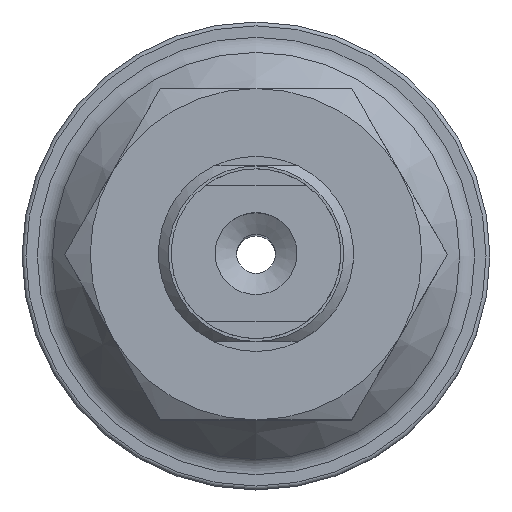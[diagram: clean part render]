
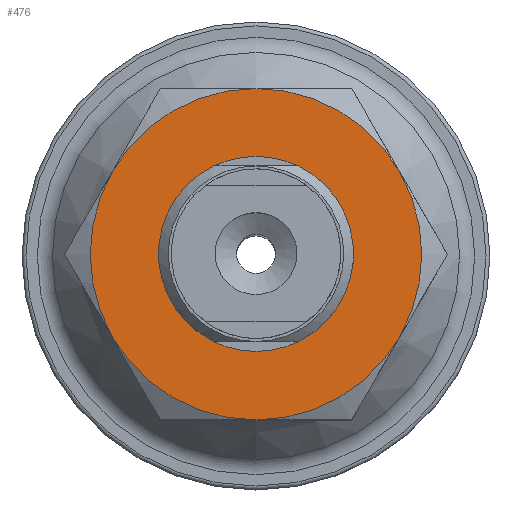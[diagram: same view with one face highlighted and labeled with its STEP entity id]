
A CAD part, top view. The second image highlights one B-rep face of the part: STEP entity #476.
In plain terms, the highlighted planar face has unit normal (0, 0, 1).
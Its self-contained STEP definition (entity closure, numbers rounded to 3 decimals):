
#476=ADVANCED_FACE('',(#639,#640),#641,.T.);
#639=FACE_BOUND('',#941,.T.);
#640=FACE_OUTER_BOUND('',#942,.T.);
#641=PLANE('',#943);
#941=EDGE_LOOP('',(#1403));
#942=EDGE_LOOP('',(#1404,#1405,#1406,#1407,#1408,#1409));
#943=AXIS2_PLACEMENT_3D('',#1410,#1411,#1412);
#1403=ORIENTED_EDGE('',*,*,#2048,.F.);
#1404=ORIENTED_EDGE('',*,*,#2049,.F.);
#1405=ORIENTED_EDGE('',*,*,#2042,.F.);
#1406=ORIENTED_EDGE('',*,*,#2018,.F.);
#1407=ORIENTED_EDGE('',*,*,#2021,.F.);
#1408=ORIENTED_EDGE('',*,*,#2050,.F.);
#1409=ORIENTED_EDGE('',*,*,#2051,.F.);
#1410=CARTESIAN_POINT('',(-9.815,-8.5,4.0));
#1411=DIRECTION('',(0.0,0.0,1.0));
#1412=DIRECTION('',(1.0,0.0,0.0));
#2018=EDGE_CURVE('',#2261,#2262,#2263,.T.);
#2021=EDGE_CURVE('',#2267,#2261,#2268,.T.);
#2042=EDGE_CURVE('',#2262,#2302,#2303,.T.);
#2048=EDGE_CURVE('',#2311,#2311,#2312,.T.);
#2049=EDGE_CURVE('',#2302,#2313,#2314,.T.);
#2050=EDGE_CURVE('',#2315,#2267,#2316,.T.);
#2051=EDGE_CURVE('',#2313,#2315,#2317,.T.);
#2261=VERTEX_POINT('',#2729);
#2262=VERTEX_POINT('',#2730);
#2263=CIRCLE('',#2731,8.5);
#2267=VERTEX_POINT('',#2743);
#2268=CIRCLE('',#2744,8.5);
#2302=VERTEX_POINT('',#2824);
#2303=CIRCLE('',#2825,8.5);
#2311=VERTEX_POINT('',#2850);
#2312=CIRCLE('',#2851,4.5);
#2313=VERTEX_POINT('',#2852);
#2314=CIRCLE('',#2853,8.5);
#2315=VERTEX_POINT('',#2854);
#2316=CIRCLE('',#2855,8.5);
#2317=CIRCLE('',#2856,8.5);
#2729=CARTESIAN_POINT('',(7.361,4.25,4.0));
#2730=CARTESIAN_POINT('',(7.361,-4.25,4.0));
#2731=AXIS2_PLACEMENT_3D('',#3241,#3242,#3243);
#2743=CARTESIAN_POINT('',(0.,8.5,4.0));
#2744=AXIS2_PLACEMENT_3D('',#3244,#3245,#3246);
#2824=CARTESIAN_POINT('',(0.,-8.5,4.0));
#2825=AXIS2_PLACEMENT_3D('',#3270,#3271,#3272);
#2850=CARTESIAN_POINT('',(0.0,-4.5,4.0));
#2851=AXIS2_PLACEMENT_3D('',#3274,#3275,#3276);
#2852=CARTESIAN_POINT('',(-7.361,-4.25,4.0));
#2853=AXIS2_PLACEMENT_3D('',#3277,#3278,#3279);
#2854=CARTESIAN_POINT('',(-7.361,4.25,4.0));
#2855=AXIS2_PLACEMENT_3D('',#3280,#3281,#3282);
#2856=AXIS2_PLACEMENT_3D('',#3283,#3284,#3285);
#3241=CARTESIAN_POINT('',(0.,0.,4.0));
#3242=DIRECTION('',(0.,0.,-1.0));
#3243=DIRECTION('',(0.866,0.5,0.));
#3244=CARTESIAN_POINT('',(0.,0.,4.0));
#3245=DIRECTION('',(0.,0.,-1.0));
#3246=DIRECTION('',(0.866,0.5,0.));
#3270=CARTESIAN_POINT('',(0.,0.,4.0));
#3271=DIRECTION('',(0.,0.,-1.0));
#3272=DIRECTION('',(0.866,0.5,0.));
#3274=CARTESIAN_POINT('',(0.0,0.0,4.0));
#3275=DIRECTION('',(0.0,0.,1.0));
#3276=DIRECTION('',(0.0,-1.0,0.));
#3277=CARTESIAN_POINT('',(0.,0.,4.0));
#3278=DIRECTION('',(0.,0.,-1.0));
#3279=DIRECTION('',(0.866,0.5,0.));
#3280=CARTESIAN_POINT('',(0.,0.,4.0));
#3281=DIRECTION('',(0.,0.,-1.0));
#3282=DIRECTION('',(0.866,0.5,0.));
#3283=CARTESIAN_POINT('',(0.,0.,4.0));
#3284=DIRECTION('',(0.,0.,-1.0));
#3285=DIRECTION('',(0.866,0.5,0.));
